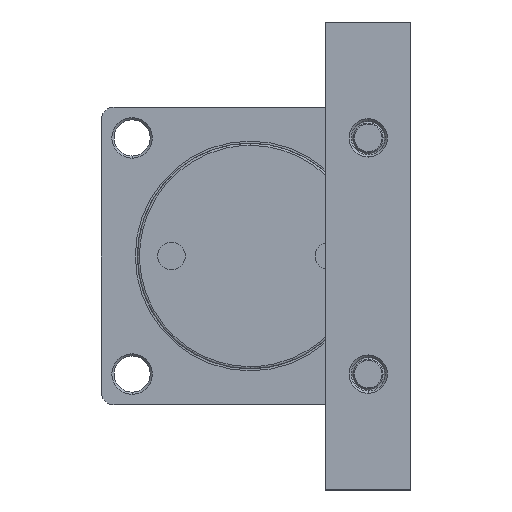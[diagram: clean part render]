
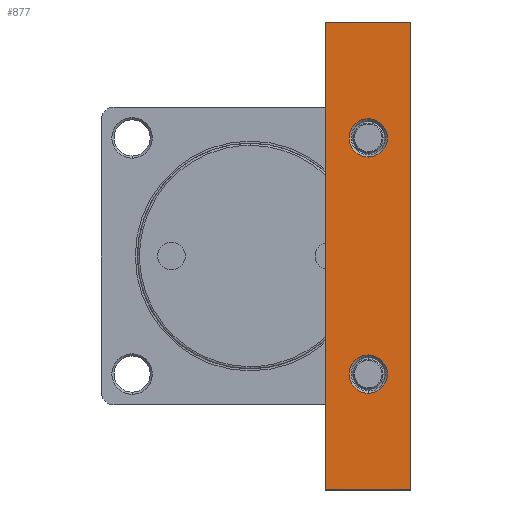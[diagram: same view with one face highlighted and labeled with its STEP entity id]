
A CAD part, left-side view. The second image highlights one B-rep face of the part: STEP entity #877.
In plain terms, the highlighted planar face has unit normal (1, 0, 0).
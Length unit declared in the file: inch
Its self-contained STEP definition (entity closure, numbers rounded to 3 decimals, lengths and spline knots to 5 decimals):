
#453 = EDGE_CURVE ( 'NONE', #3387, #11005, #2498, .T. ) ;
#562 = DIRECTION ( 'NONE',  ( -1., 0., 0. ) ) ;
#596 = CARTESIAN_POINT ( 'NONE',  ( -2.61811, -2.97244, 4.33071 ) ) ;
#675 = CARTESIAN_POINT ( 'NONE',  ( -2.61811, -2.97244, 4.33071 ) ) ;
#791 = VECTOR ( 'NONE', #7187, 39.37008 ) ;
#877 = ADVANCED_FACE ( 'NONE', ( #13694, #7537, #1620 ), #6377, .T. ) ;
#1011 = DIRECTION ( 'NONE',  ( -1., 0., 0. ) ) ;
#1105 = DIRECTION ( 'NONE',  ( -1., 0., 0. ) ) ;
#1428 = ORIENTED_EDGE ( 'NONE', *, *, #8843, .T. ) ;
#1466 = VERTEX_POINT ( 'NONE', #11129 ) ;
#1520 = VERTEX_POINT ( 'NONE', #4240 ) ;
#1561 = CARTESIAN_POINT ( 'NONE',  ( -2.61811, -2.18504, 1.83071 ) ) ;
#1607 = DIRECTION ( 'NONE',  ( 0., 0., 1. ) ) ;
#1617 = CARTESIAN_POINT ( 'NONE',  ( -2.61811, -2.18504, -2.18504 ) ) ;
#1620 = FACE_BOUND ( 'NONE', #3689, .T. ) ;
#1758 = VERTEX_POINT ( 'NONE', #12555 ) ;
#2498 = CIRCLE ( 'NONE', #2693, 0.35433 ) ;
#2601 = VERTEX_POINT ( 'NONE', #2778 ) ;
#2693 = AXIS2_PLACEMENT_3D ( 'NONE', #10167, #10182, #10190 ) ;
#2778 = CARTESIAN_POINT ( 'NONE',  ( -2.61811, -2.97244, 4.33071 ) ) ;
#2865 = CIRCLE ( 'NONE', #5267, 0.35433 ) ;
#2881 = LINE ( 'NONE', #596, #791 ) ;
#2995 = EDGE_CURVE ( 'NONE', #1520, #1758, #2865, .T. ) ;
#3387 = VERTEX_POINT ( 'NONE', #1561 ) ;
#3689 = EDGE_LOOP ( 'NONE', ( #7731, #9917 ) ) ;
#3703 = CARTESIAN_POINT ( 'NONE',  ( -2.61811, -2.18504, 2.53937 ) ) ;
#3758 = CARTESIAN_POINT ( 'NONE',  ( -2.61811, -2.97244, -4.33071 ) ) ;
#3971 = EDGE_CURVE ( 'NONE', #10096, #1466, #7564, .T. ) ;
#4240 = CARTESIAN_POINT ( 'NONE',  ( -2.61811, -2.18504, -2.53937 ) ) ;
#4333 = LINE ( 'NONE', #675, #9555 ) ;
#4426 = EDGE_CURVE ( 'NONE', #1466, #2601, #2881, .T. ) ;
#4654 = DIRECTION ( 'NONE',  ( 0., 0., 1. ) ) ;
#4822 = CARTESIAN_POINT ( 'NONE',  ( -2.61811, -1.39764, 4.33071 ) ) ;
#4846 = ORIENTED_EDGE ( 'NONE', *, *, #9637, .T. ) ;
#5069 = VERTEX_POINT ( 'NONE', #3758 ) ;
#5267 = AXIS2_PLACEMENT_3D ( 'NONE', #1617, #562, #1607 ) ;
#5335 = DIRECTION ( 'NONE',  ( 0., 0., -1. ) ) ;
#5365 = DIRECTION ( 'NONE',  ( 1., 0., 0. ) ) ;
#5407 = CARTESIAN_POINT ( 'NONE',  ( -2.61811, -2.97244, 4.33071 ) ) ;
#5786 = DIRECTION ( 'NONE',  ( 0., 1., 0. ) ) ;
#5902 = ORIENTED_EDGE ( 'NONE', *, *, #4426, .T. ) ;
#6006 = VECTOR ( 'NONE', #5786, 39.37008 ) ;
#6377 = PLANE ( 'NONE',  #8408 ) ;
#6547 = VECTOR ( 'NONE', #4654, 39.37008 ) ;
#6825 = CIRCLE ( 'NONE', #10551, 0.35433 ) ;
#7163 = CARTESIAN_POINT ( 'NONE',  ( -2.61811, -1.39764, -4.33071 ) ) ;
#7187 = DIRECTION ( 'NONE',  ( 0., -1., 0. ) ) ;
#7397 = EDGE_CURVE ( 'NONE', #2601, #5069, #4333, .T. ) ;
#7463 = ORIENTED_EDGE ( 'NONE', *, *, #7397, .T. ) ;
#7537 = FACE_BOUND ( 'NONE', #7692, .T. ) ;
#7564 = LINE ( 'NONE', #4822, #6547 ) ;
#7672 = CARTESIAN_POINT ( 'NONE',  ( -2.61811, -2.18504, 2.18504 ) ) ;
#7692 = EDGE_LOOP ( 'NONE', ( #1428, #8200 ) ) ;
#7731 = ORIENTED_EDGE ( 'NONE', *, *, #10791, .T. ) ;
#7769 = CARTESIAN_POINT ( 'NONE',  ( -2.61811, -2.18504, -2.18504 ) ) ;
#7913 = AXIS2_PLACEMENT_3D ( 'NONE', #7672, #1011, #8810 ) ;
#8200 = ORIENTED_EDGE ( 'NONE', *, *, #453, .T. ) ;
#8404 = DIRECTION ( 'NONE',  ( 0., 0., -1. ) ) ;
#8408 = AXIS2_PLACEMENT_3D ( 'NONE', #5407, #5365, #5335 ) ;
#8759 = EDGE_LOOP ( 'NONE', ( #13471, #5902, #7463, #4846 ) ) ;
#8810 = DIRECTION ( 'NONE',  ( 0., 0., 1. ) ) ;
#8843 = EDGE_CURVE ( 'NONE', #11005, #3387, #8933, .T. ) ;
#8916 = DIRECTION ( 'NONE',  ( 0., 0., 1. ) ) ;
#8918 = LINE ( 'NONE', #12350, #6006 ) ;
#8933 = CIRCLE ( 'NONE', #7913, 0.35433 ) ;
#9555 = VECTOR ( 'NONE', #8404, 39.37008 ) ;
#9637 = EDGE_CURVE ( 'NONE', #5069, #10096, #8918, .T. ) ;
#9917 = ORIENTED_EDGE ( 'NONE', *, *, #2995, .T. ) ;
#10096 = VERTEX_POINT ( 'NONE', #7163 ) ;
#10167 = CARTESIAN_POINT ( 'NONE',  ( -2.61811, -2.18504, 2.18504 ) ) ;
#10182 = DIRECTION ( 'NONE',  ( -1., 0., 0. ) ) ;
#10190 = DIRECTION ( 'NONE',  ( 0., 0., 1. ) ) ;
#10551 = AXIS2_PLACEMENT_3D ( 'NONE', #7769, #1105, #8916 ) ;
#10791 = EDGE_CURVE ( 'NONE', #1758, #1520, #6825, .T. ) ;
#11005 = VERTEX_POINT ( 'NONE', #3703 ) ;
#11129 = CARTESIAN_POINT ( 'NONE',  ( -2.61811, -1.39764, 4.33071 ) ) ;
#12350 = CARTESIAN_POINT ( 'NONE',  ( -2.61811, -2.97244, -4.33071 ) ) ;
#12555 = CARTESIAN_POINT ( 'NONE',  ( -2.61811, -2.18504, -1.83071 ) ) ;
#13471 = ORIENTED_EDGE ( 'NONE', *, *, #3971, .T. ) ;
#13694 = FACE_OUTER_BOUND ( 'NONE', #8759, .T. ) ;
